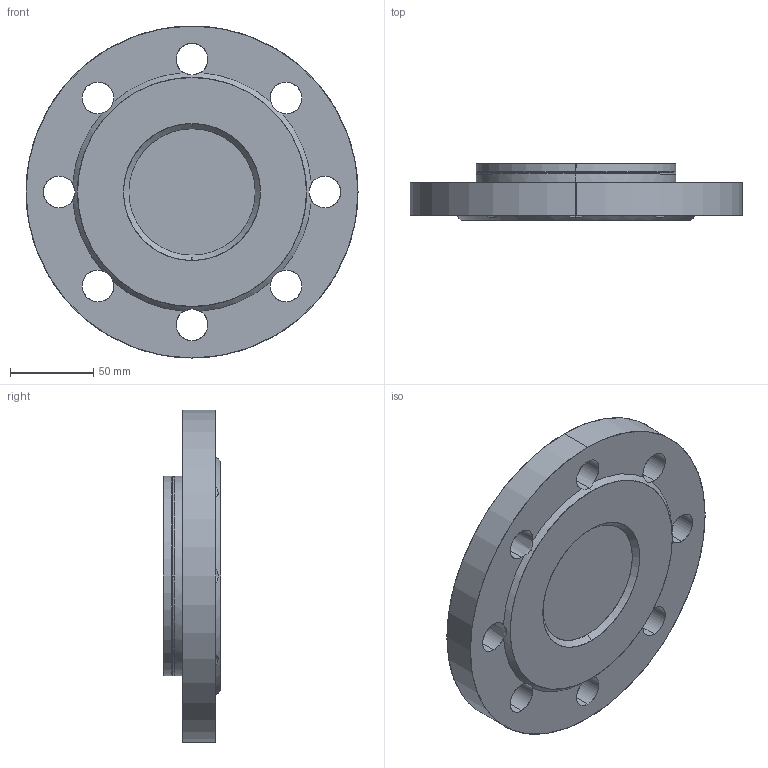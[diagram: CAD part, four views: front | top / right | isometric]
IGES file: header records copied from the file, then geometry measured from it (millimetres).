
Start section: SolidWorks IGES file using analytic representation for surfaces
Global section: file name: C:\Users\kprahl\Desktop\DD Files From Rick\18018001.IGS; native system: SolidWorks 2013; preprocessor: SolidWorks 2013; author: kprahl; date: 131025.090741; units: inch
Bounding box: 200 x 34.37 x 200 mm (x, y, z)
Surface area: 85643 mm2 (no closed solid volume)
Topology: 0 solids, 0 shells, 35 faces, 1353 edges, 1353 vertices
Faces by surface type: revolution 28, bspline 7
